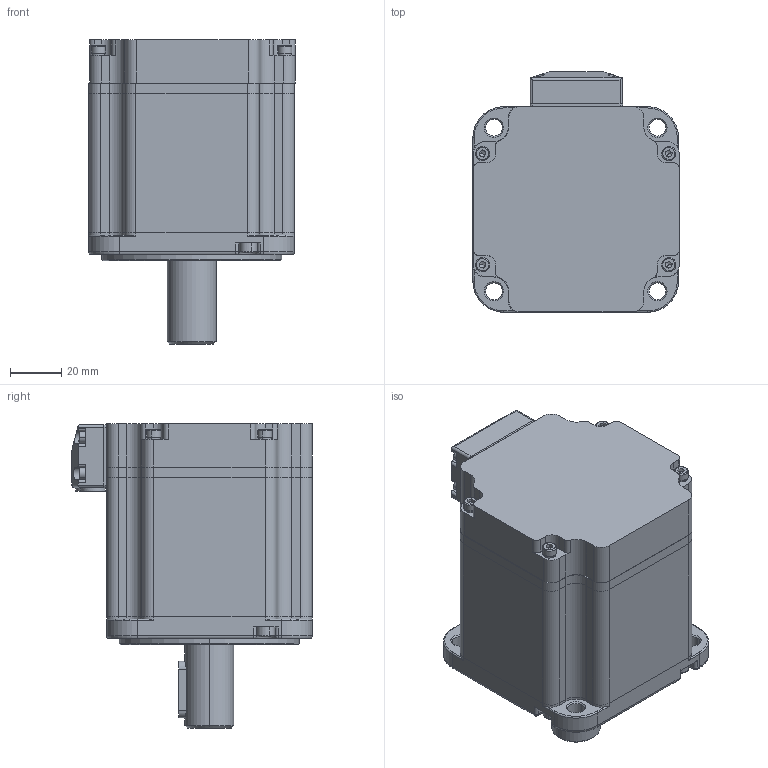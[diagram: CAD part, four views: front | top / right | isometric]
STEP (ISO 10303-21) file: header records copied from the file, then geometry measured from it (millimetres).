
FILE_DESCRIPTION (( 'STEP AP203' ), '1' );
FILE_NAME ('307030110-SMS080-07530D10MONL .STEP', '2021-08-02T01:54:28', ( '' ), ( '' ), 'SwSTEP 2.0', 'SolidWorks 2018', '' );
FILE_SCHEMA (( 'CONFIG_CONTROL_DESIGN' ));
Length unit declared in the file: millimetre
Products named in the file (1): 307030110-SMS080-07530D10MONL 
Bounding box: 80.25 x 93.5 x 118.4 mm (x, y, z)
Volume: 200411.3 mm3; surface area: 119703.6 mm2
Topology: 31 solids, 31 shells, 1617 faces, 4087 edges, 2523 vertices
Faces by surface type: cylinder 606, plane 525, torus 246, cone 120, sphere 108, bspline 12
Entity records: 52283 total; most frequent: CARTESIAN_POINT 13215, DIRECTION 8601, ORIENTED_EDGE 7966, EDGE_CURVE 3983, AXIS2_PLACEMENT_3D 3484, VERTEX_POINT 2505, CIRCLE 1878, EDGE_LOOP 1812
